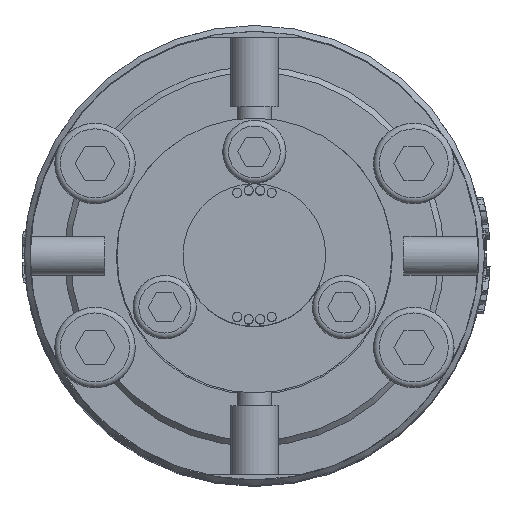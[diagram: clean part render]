
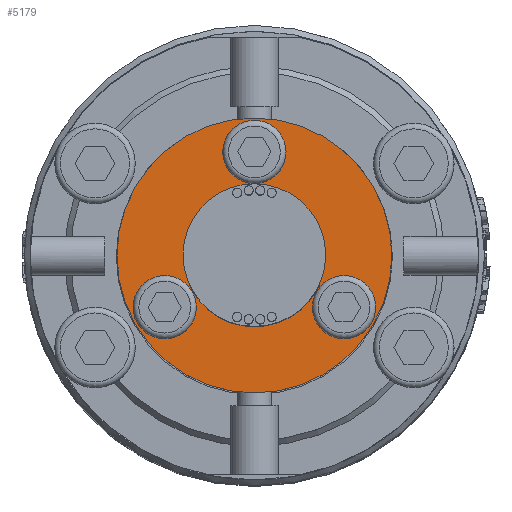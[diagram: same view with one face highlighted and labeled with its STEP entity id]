
A CAD part, top view. The second image highlights one B-rep face of the part: STEP entity #5179.
In plain terms, the highlighted planar face has unit normal (0, 0, 1).
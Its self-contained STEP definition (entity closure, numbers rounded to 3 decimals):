
#5179=ADVANCED_FACE('',(#6669,#6670,#6671,#6672,#6673),#6172,.T.);
#6172=PLANE('',#17922);
#6669=FACE_BOUND('',#7049,.T.);
#6670=FACE_BOUND('',#7050,.T.);
#6671=FACE_BOUND('',#7051,.T.);
#6672=FACE_BOUND('',#7052,.T.);
#6673=FACE_BOUND('',#7053,.T.);
#7049=EDGE_LOOP('',(#8388));
#7050=EDGE_LOOP('',(#8389));
#7051=EDGE_LOOP('',(#8390));
#7052=EDGE_LOOP('',(#8391));
#7053=EDGE_LOOP('',(#8392));
#8388=ORIENTED_EDGE('',*,*,#15148,.F.);
#8389=ORIENTED_EDGE('',*,*,#15149,.F.);
#8390=ORIENTED_EDGE('',*,*,#15150,.F.);
#8391=ORIENTED_EDGE('',*,*,#15147,.F.);
#8392=ORIENTED_EDGE('',*,*,#15151,.F.);
#13368=VERTEX_POINT('',#21723);
#13369=VERTEX_POINT('',#21726);
#13370=VERTEX_POINT('',#21728);
#13371=VERTEX_POINT('',#21730);
#13372=VERTEX_POINT('',#21732);
#15147=EDGE_CURVE('',#13368,#13368,#17633,.T.);
#15148=EDGE_CURVE('',#13369,#13369,#17634,.T.);
#15149=EDGE_CURVE('',#13370,#13370,#17635,.T.);
#15150=EDGE_CURVE('',#13371,#13371,#17636,.T.);
#15151=EDGE_CURVE('',#13372,#13372,#17637,.T.);
#17633=CIRCLE('',#17916,6.2);
#17634=CIRCLE('',#17918,2.75);
#17635=CIRCLE('',#17919,2.75);
#17636=CIRCLE('',#17920,2.75);
#17637=CIRCLE('',#17921,11.95);
#17916=AXIS2_PLACEMENT_3D('',#21722,#18997,#18998);
#17918=AXIS2_PLACEMENT_3D('',#21725,#19001,#19002);
#17919=AXIS2_PLACEMENT_3D('',#21727,#19003,#19004);
#17920=AXIS2_PLACEMENT_3D('',#21729,#19005,#19006);
#17921=AXIS2_PLACEMENT_3D('',#21731,#19007,#19008);
#17922=AXIS2_PLACEMENT_3D('',#21733,#19009,#19010);
#18997=DIRECTION('',(0.,0.,1.));
#18998=DIRECTION('',(0.,1.,0.));
#19001=DIRECTION('',(0.,0.,1.));
#19002=DIRECTION('',(1.,0.,0.));
#19003=DIRECTION('',(0.,0.,1.));
#19004=DIRECTION('',(-0.5,0.866,0.));
#19005=DIRECTION('',(0.,0.,1.));
#19006=DIRECTION('',(-0.5,-0.866,0.));
#19007=DIRECTION('',(0.,0.,-1.));
#19008=DIRECTION('',(0.,1.,0.));
#19009=DIRECTION('',(0.,0.,1.));
#19010=DIRECTION('',(0.,1.,0.));
#21722=CARTESIAN_POINT('',(0.,0.,64.5));
#21723=CARTESIAN_POINT('',(0.,6.2,64.5));
#21725=CARTESIAN_POINT('',(0.,9.,64.5));
#21726=CARTESIAN_POINT('',(2.75,9.,64.5));
#21727=CARTESIAN_POINT('',(-7.794,-4.5,64.5));
#21728=CARTESIAN_POINT('',(-9.169,-2.118,64.5));
#21729=CARTESIAN_POINT('',(7.794,-4.5,64.5));
#21730=CARTESIAN_POINT('',(6.419,-6.882,64.5));
#21731=CARTESIAN_POINT('',(0.,0.,64.5));
#21732=CARTESIAN_POINT('',(0.,11.95,64.5));
#21733=CARTESIAN_POINT('',(0.,0.,64.5));
